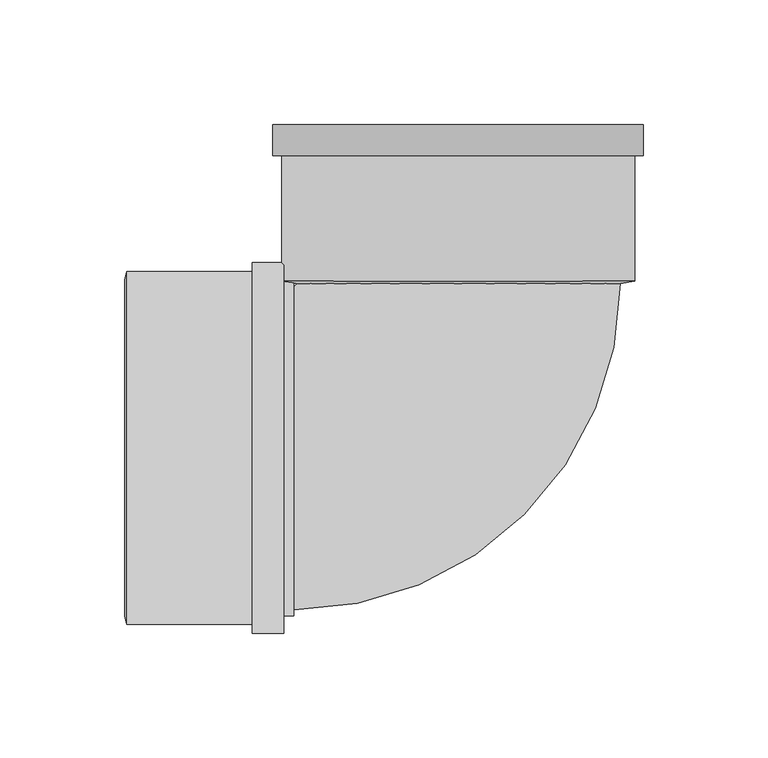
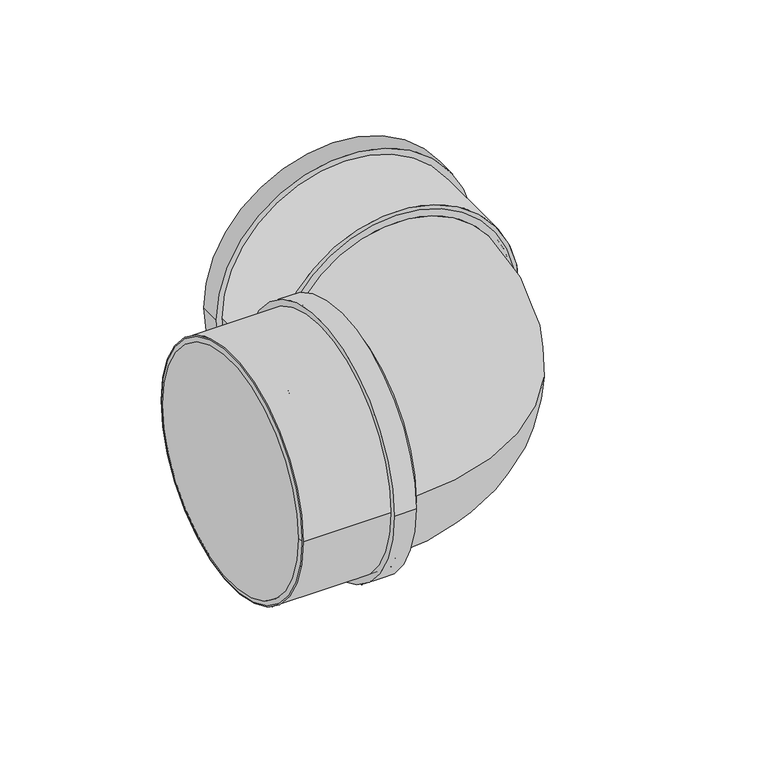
"""IFC4 building model written with IfcOpenShell, lengths in millimetres: pipe fitting geometry, Superdrain SK Bend_Composite 2x45 : Superdrain SK Bend_Composite 2x45."""

import ifcopenshell
import ifcopenshell.guid

model = None  # the IFC model being written
_history = None  # IfcOwnerHistory: only IFC2X3 demands one
_inside = {}  # id of a spatial element -> (the spatial element, [elements in it])
_under = {}  # id of a project, library or spatial element -> (it, [spatial elements below it])
_declared = {}  # id of a project -> (the project, [libraries it declares])
_typed = {}  # id of a type object -> (the type object, [elements of that type])
_made_of = {}  # id of a material, layer set ... -> (it, [elements and type objects made of it])


def new_model(schema):
    """Start an empty IFC model of exactly this schema.

    Asked for "IFC4X3", IfcOpenShell would pick the latest addendum, in which some entities
    have other attributes; the version numbers below select the first issue.
    IFC2X3 requires an IfcOwnerHistory on every rooted entity: one is made here for all.
    """
    global model, _history
    if schema == "IFC4X3":
        model = ifcopenshell.file(schema_version=(4, 3, 0, 0))
    else:
        model = ifcopenshell.file(schema=schema)
    _inside.clear()
    _under.clear()
    _declared.clear()
    _typed.clear()
    _made_of.clear()
    _history = None
    if model.schema == "IFC2X3":
        org = make("IfcOrganization", Name="unknown")
        user = make(
            "IfcPersonAndOrganization",
            ThePerson=make("IfcPerson", FamilyName="unknown"),
            TheOrganization=org,
        )
        app = make(
            "IfcApplication",
            ApplicationDeveloper=org,
            Version="unknown",
            ApplicationFullName="unknown",
            ApplicationIdentifier="unknown",
        )
        _history = make(
            "IfcOwnerHistory",
            OwningUser=user,
            OwningApplication=app,
            ChangeAction="ADDED",
            CreationDate=0,
        )
    return model


def make(cls, **values):
    """One entity of the class cls with the attributes given. An attribute that is None is left unset."""
    return model.create_entity(
        cls, **{name: value for name, value in values.items() if value is not None}
    )


def rooted(cls, **values):
    """An entity with a GlobalId (a new one), such as an element, a storey or a relation."""
    return make(cls, GlobalId=ifcopenshell.guid.new(), OwnerHistory=_history, **values)


def si_unit(unit_type, name, prefix=None):
    """IfcSIUnit, for example si_unit("LENGTHUNIT", "METRE", prefix="MILLI")."""
    return make("IfcSIUnit", UnitType=unit_type, Prefix=prefix, Name=name)


def assignment(units):
    """IfcUnitAssignment: the units of a project."""
    return None if units is None else make("IfcUnitAssignment", Units=units)


def point(xyz):
    """IfcCartesianPoint."""
    return None if xyz is None else make("IfcCartesianPoint", Coordinates=xyz)


def direction(xyz):
    """IfcDirection."""
    return None if xyz is None else make("IfcDirection", DirectionRatios=xyz)


def frame(location, z_axis=None, x_axis=None):
    """IfcAxis2Placement3D, a coordinate frame: its origin and axes. An axis left out is left unset."""
    return make(
        "IfcAxis2Placement3D",
        Location=point(location),
        Axis=direction(z_axis),
        RefDirection=direction(x_axis),
    )


def frame_2d(location, x_axis=None):
    """IfcAxis2Placement2D, a coordinate frame in the plane: its origin and x axis."""
    return make(
        "IfcAxis2Placement2D", Location=point(location), RefDirection=direction(x_axis)
    )


def origin():
    """The frame at (0, 0, 0) with its axes left unset."""
    return frame((0.0, 0.0, 0.0))


def origin_2d():
    """The frame at (0, 0) in the plane with its x axis left unset."""
    return frame_2d((0.0, 0.0))


def place(relative_to, where):
    """IfcLocalPlacement: puts the frame where relative to a parent placement (None: the world)."""
    return make(
        "IfcLocalPlacement", PlacementRelTo=relative_to, RelativePlacement=where
    )


def context(
    kind, dimensions, precision=None, world=None, true_north=None, identifier=None
):
    """IfcGeometricRepresentationContext, for example the 3D "Model" context."""
    return make(
        "IfcGeometricRepresentationContext",
        ContextIdentifier=identifier,
        ContextType=kind,
        CoordinateSpaceDimension=dimensions,
        Precision=precision,
        WorldCoordinateSystem=world,
        TrueNorth=true_north,
    )


def project(units=None, contexts=None):
    """IfcProject with its units and contexts."""
    return rooted(
        "IfcProject",
        Name="project",
        RepresentationContexts=contexts,
        UnitsInContext=assignment(units),
    )


def spatial(cls, under=None, at=None, **own):
    """A site, building, storey or space (cls), placed at a placement, below another one or the project."""
    s = rooted(cls, ObjectPlacement=at, **own)
    if under is not None:
        _under.setdefault(under.id(), (under, []))[1].append(s)
    return s


def polyline(points):
    """IfcPolyline through the points."""
    return make("IfcPolyline", Points=[point(p) for p in points])


def circle_curve(where, radius):
    """IfcCircle in the frame where."""
    return make("IfcCircle", Position=where, Radius=radius)


def ellipse_curve(where, semi_axis1, semi_axis2):
    """IfcEllipse in the frame where."""
    return make(
        "IfcEllipse", Position=where, SemiAxis1=semi_axis1, SemiAxis2=semi_axis2
    )


def trimmed(basis, trim1, trim2, sense, master):
    """IfcTrimmedCurve: the piece of a basis curve between two trims."""
    return make(
        "IfcTrimmedCurve",
        BasisCurve=basis,
        Trim1=trim1,
        Trim2=trim2,
        SenseAgreement=sense,
        MasterRepresentation=master,
    )


def segment(curve, same_sense, transition):
    """IfcCompositeCurveSegment."""
    return make(
        "IfcCompositeCurveSegment",
        Transition=transition,
        SameSense=same_sense,
        ParentCurve=curve,
    )


def composite_curve(segments, self_intersect=None):
    """IfcCompositeCurve: segments joined end to end."""
    return make("IfcCompositeCurve", Segments=segments, SelfIntersect=self_intersect)


def outline(outer, holes=None, kind="AREA"):
    """IfcArbitraryClosedProfileDef: a profile drawn as a closed curve; with holes, ...WithVoids."""
    if holes is None:
        return make("IfcArbitraryClosedProfileDef", ProfileType=kind, OuterCurve=outer)
    return make(
        "IfcArbitraryProfileDefWithVoids",
        ProfileType=kind,
        OuterCurve=outer,
        InnerCurves=holes,
    )


def extrude(swept, where, along, depth):
    """IfcExtrudedAreaSolid: the profile swept, set in the frame where, extruded along a direction by depth."""
    return make(
        "IfcExtrudedAreaSolid",
        SweptArea=swept,
        Position=where,
        ExtrudedDirection=direction(along),
        Depth=depth,
    )


def shape(context_of_items, identifier, shape_type, items):
    """IfcShapeRepresentation: the items that make up one representation, for example the "Body"."""
    return make(
        "IfcShapeRepresentation",
        ContextOfItems=context_of_items,
        RepresentationIdentifier=identifier,
        RepresentationType=shape_type,
        Items=items,
    )


def source(mapping_origin, context_of_items, identifier, shape_type, items):
    """IfcRepresentationMap: a shape defined once, which mapped items show again and again."""
    return make(
        "IfcRepresentationMap",
        MappingOrigin=mapping_origin,
        MappedRepresentation=shape(context_of_items, identifier, shape_type, items),
    )


def transform(
    local_origin,
    x_axis=None,
    y_axis=None,
    z_axis=None,
    scale=None,
    scale2=None,
    scale3=None,
    uniform=True,
):
    """IfcCartesianTransformationOperator3D, or its non-uniform kind. x_axis, y_axis, z_axis: its Axis1, 2, 3."""
    if uniform:
        return make(
            "IfcCartesianTransformationOperator3D",
            Axis1=direction(x_axis),
            Axis2=direction(y_axis),
            LocalOrigin=point(local_origin),
            Scale=scale,
            Axis3=direction(z_axis),
        )
    return make(
        "IfcCartesianTransformationOperator3DnonUniform",
        Axis1=direction(x_axis),
        Axis2=direction(y_axis),
        LocalOrigin=point(local_origin),
        Scale=scale,
        Axis3=direction(z_axis),
        Scale2=scale2,
        Scale3=scale3,
    )


def mapped(mapping_source, mapping_target):
    """IfcMappedItem: shows the shape of a source again, moved by a transform."""
    return make(
        "IfcMappedItem", MappingSource=mapping_source, MappingTarget=mapping_target
    )


def made_of(thing, what):
    """Note that an element or type object is made of a material, layer set ...; save() writes the relation."""
    if what is not None:
        _made_of.setdefault(what.id(), (what, []))[1].append(thing)
    return thing


def element(
    cls,
    number,
    at=None,
    inside=None,
    cuts=None,
    type_object=None,
    material=None,
    context=None,
    identifier="Body",
    shape_type=None,
    held_by="IfcProductDefinitionShape",
    body=None,
    shapes=None,
    **own,
):
    """One element of the class cls, such as IfcWall. Its Tag is "e" and its number.

    at: its placement. inside: the storey or other place that contains it. cuts: it is an
    opening in that element (IfcRelVoidsElement). A single representation is given by context,
    identifier, shape_type and body (its items); several are given by shapes. held_by: the class
    of the entity that holds the representations. save() writes the other relations.
    """
    e = rooted(cls, Tag="e%d" % number, ObjectPlacement=at, **own)
    if body is not None:
        shapes = [shape(context, identifier, shape_type, body)]
    if shapes is not None:
        e.Representation = make(held_by, Representations=shapes)
    if inside is not None:
        _inside.setdefault(inside.id(), (inside, []))[1].append(e)
    if cuts is not None:
        rooted(
            "IfcRelVoidsElement", RelatingBuildingElement=cuts, RelatedOpeningElement=e
        )
    if type_object is not None:
        _typed.setdefault(type_object.id(), (type_object, []))[1].append(e)
    return made_of(e, material)


def aggregate(whole, parts):
    """IfcRelAggregates: a whole, such as a stair, and the parts it consists of."""
    return rooted("IfcRelAggregates", RelatingObject=whole, RelatedObjects=parts)


def save(model, path):
    """Write the relations noted so far, then the file.

    IfcRelAggregates (storeys below a building ...), IfcRelContainedInSpatialStructure (elements
    in a storey), IfcRelDefinesByType, IfcRelAssociatesMaterial and IfcRelDeclares: one each for
    every whole, place, type object, material and project.
    """
    for whole, parts in _under.values():
        aggregate(whole, parts)
    for where, things in _inside.values():
        rooted(
            "IfcRelContainedInSpatialStructure",
            RelatedElements=things,
            RelatingStructure=where,
        )
    for kind, things in _typed.values():
        rooted("IfcRelDefinesByType", RelatedObjects=things, RelatingType=kind)
    for what, things in _made_of.values():
        rooted("IfcRelAssociatesMaterial", RelatedObjects=things, RelatingMaterial=what)
    for by, libraries in _declared.values():
        rooted("IfcRelDeclares", RelatingContext=by, RelatedDefinitions=libraries)
    model.write(path)


def plane_surface(at):
    """IfcPlane: the flat surface through the origin of the frame at, square to its z axis."""
    return make("IfcPlane", Position=at)


def revolved_surface(curve, axis_point, axis_direction):
    """IfcSurfaceOfRevolution: the curve turned about the line through axis_point along axis_direction."""
    return make(
        "IfcSurfaceOfRevolution",
        SweptCurve=make("IfcArbitraryOpenProfileDef", ProfileType="CURVE", Curve=curve),
        AxisPosition=make("IfcAxis1Placement", Location=point(axis_point), Axis=direction(axis_direction)),
    )


def advanced_brep(points, edges, surfaces, faces):
    """IfcAdvancedBrep: a solid bounded by faces that lie on surfaces and meet in shared edges.

    An edge is (start, end): straight between two places in points (the first is 0);
    or (start, end, curve); or (start, end, curve, False) where it runs against its curve.
    A face is (place in surfaces, loops), or (place, loops, False) where it looks against
    its surface's normal. A loop lists edges by number (the first is 1), with a minus sign
    where the edge is run from its end to its start. The first loop is the outer one.
    """
    corners = [point(p) for p in points]
    vertices = [make("IfcVertexPoint", VertexGeometry=c) for c in corners]
    made = []
    for start, end, *more in edges:
        made.append(
            make(
                "IfcEdgeCurve",
                EdgeStart=vertices[start],
                EdgeEnd=vertices[end],
                EdgeGeometry=more[0] if more else make("IfcPolyline", Points=[corners[start], corners[end]]),
                SameSense=more[1] if len(more) > 1 else True,
            )
        )
    hull = []
    for where, loops, *sense in faces:
        bounds = []
        for j, loop in enumerate(loops):
            ring = [make("IfcOrientedEdge", EdgeElement=made[abs(k) - 1], Orientation=k > 0) for k in loop]
            bounds.append(
                make(
                    "IfcFaceOuterBound" if j == 0 else "IfcFaceBound",
                    Bound=make("IfcEdgeLoop", EdgeList=ring),
                    Orientation=True,
                )
            )
        hull.append(make("IfcAdvancedFace", Bounds=bounds, FaceSurface=surfaces[where], SameSense=sense[0] if sense else True))
    return make("IfcAdvancedBrep", Outer=make("IfcClosedShell", CfsFaces=hull))


def pipe_fitting_be12157c(model_context):
    return source(origin(), model_context, "Body", "SolidModel", [
        extrude(outline(composite_curve([segment(trimmed(circle_curve(origin_2d(), 70.875), [point((70.875, 0.0))], [point((-70.875, 0.0))], False, "CARTESIAN"), True, "CONTINUOUS"), segment(trimmed(circle_curve(origin_2d(), 70.875), [point((-70.875, 0.0))], [point((70.875, 0.0))], False, "CARTESIAN"), True, "CONTINUOUS")], self_intersect=False), holes=[composite_curve([segment(trimmed(circle_curve(origin_2d(), 67.5), [point((67.5, 0.0))], [point((-67.5, 0.0))], True, "CARTESIAN"), True, "CONTINUOUS"), segment(trimmed(circle_curve(origin_2d(), 67.5), [point((-67.5, 0.0))], [point((67.5, 0.0))], True, "CARTESIAN"), True, "CONTINUOUS")], self_intersect=False)]), frame((-133.0, 0.0, 0.0), z_axis=(1.0, 0.0, 0.0), x_axis=(0.0, 1.0, 0.0)), (0.0, 0.0, 1.0), 63.0),
        extrude(outline(composite_curve([segment(trimmed(circle_curve(origin_2d(), 74.41875), [point((74.41875, 0.0))], [point((-74.41875, 0.0))], False, "CARTESIAN"), True, "CONTINUOUS"), segment(trimmed(circle_curve(origin_2d(), 74.41875), [point((-74.41875, 0.0))], [point((74.41875, 0.0))], False, "CARTESIAN"), True, "CONTINUOUS")], self_intersect=False), holes=[composite_curve([segment(trimmed(circle_curve(origin_2d(), 67.5), [point((67.5, 0.0))], [point((-67.5, 0.0))], True, "CARTESIAN"), True, "CONTINUOUS"), segment(trimmed(circle_curve(origin_2d(), 67.5), [point((-67.5, 0.0))], [point((67.5, 0.0))], True, "CARTESIAN"), True, "CONTINUOUS")], self_intersect=False)]), frame((-82.6, 0.0, 0.0), z_axis=(1.0, 0.0, 0.0), x_axis=(0.0, 1.0, 0.0)), (0.0, 0.0, 1.0), 12.6),
        advanced_brep(
        [(-134.0, 67.5, 0.0), (-134.0, -67.5, 0.0), (-133.0, 70.875, 0.0), (-133.0, -70.875, 0.0)],
        [
            (0, 1, circle_curve(frame((-134.0, 0.0, 0.0), z_axis=(-1.0, 0.0, 0.0), x_axis=(0.0, 1.0000000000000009, 0.0)), 67.5)),
            (1, 0, circle_curve(frame((-134.0, 0.0, 0.0), z_axis=(-1.0, 0.0, 0.0), x_axis=(0.0, -1.0000000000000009, 0.0)), 67.5)),
            (2, 3, circle_curve(frame((-133.0, 0.0, 0.0), z_axis=(1.0, 0.0, 0.0), x_axis=(0.0, -1.0000000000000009, 0.0)), 70.875)),
            (3, 2, circle_curve(frame((-133.0, 0.0, 0.0), z_axis=(1.0, 0.0, 0.0), x_axis=(0.0, 1.0000000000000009, 0.0)), 70.875)),
            (3, 1),
            (0, 2),
        ],
        [
            plane_surface(frame((-134.0, 0.0, 0.0), z_axis=(-1.0, 0.0, 0.0), x_axis=(0.0, 0.0, -1.0))),
            plane_surface(frame((-133.0, 0.0, 0.0), z_axis=(1.0, 0.0, 0.0), x_axis=(0.0, 0.0, -1.0))),
            revolved_surface(polyline([(-134.0, 67.49999999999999, 0.0), (-133.0, 70.875, 0.0)]), (-154.0, 0.0, 0.0), (1.0000000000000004, 0.0, 0.0)),
            revolved_surface(polyline([(-134.0, -67.49999999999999, 0.0), (-133.0, -70.875, 0.0)]), (-154.0, 0.0, 0.0), (1.0000000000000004, 0.0, 0.0)),
        ],
        [
            (0, [[1, 2]]),
            (1, [[3, 4]]),
            (2, [[-4, 5, -1, 6]]),
            (3, [[-3, -6, -2, -5]]),
        ],
    ),
        advanced_brep(
        [(65.0, 66.0, 0.0), (-65.0, 66.0, 0.0), (-66.0, -65.0, 0.0), (-66.0, 65.0, 0.0)],
        [
            (0, 1, circle_curve(frame((0.0, 66.0, 0.0), z_axis=(0.0, 1.0, 0.0), x_axis=(-1.0, 0.0, 0.0)), 65.0)),
            (1, 0, circle_curve(frame((0.0, 66.0, 0.0), z_axis=(0.0, 1.0, 0.0), x_axis=(-1.0, 0.0, 0.0)), 65.0)),
            (2, 3, circle_curve(frame((-66.0, 0.0, 0.0), z_axis=(-1.0, 0.0, 0.0), x_axis=(0.0, 1.0, 0.0)), 65.0)),
            (3, 2, circle_curve(frame((-66.0, 0.0, 0.0), z_axis=(-1.0, 0.0, 0.0), x_axis=(0.0, 1.0, 0.0)), 65.0)),
            (3, 1, circle_curve(frame((-66.0, 66.0, 0.0), z_axis=(0.0, 0.0, 1.0), x_axis=(1.0, 0.0, 0.0)), 1.0)),
            (0, 2, circle_curve(frame((-66.0, 66.0, 0.0), z_axis=(0.0, 0.0, -1.0), x_axis=(1.0, 0.0, 0.0)), 131.0)),
        ],
        [
            plane_surface(frame((0.0, 66.0, 0.0), z_axis=(0.0, 1.0, 0.0), x_axis=(0.0, 0.0, -1.0))),
            plane_surface(frame((-66.0, 0.0, 0.0), z_axis=(-1.0, 0.0, 0.0), x_axis=(0.0, 0.0, -1.0))),
            revolved_surface(trimmed(ellipse_curve(frame((0.0, 66.0, 0.0), z_axis=(0.0, -1.0, 0.0), x_axis=(-1.0, 0.0, 0.0)), 65.0, 65.0), [point((-65.0, 66.0, 0.0))], [point((65.0, 66.0, 0.0))], True, "CARTESIAN"), (-66.0, 66.0, 0.0), (0.0, 0.0, 1.0)),
            revolved_surface(trimmed(ellipse_curve(frame((0.0, 66.0, 0.0), z_axis=(0.0, -1.0, 0.0), x_axis=(-1.0, 0.0, 0.0)), 65.0, 65.0), [point((65.0, 66.0, 0.0))], [point((-65.0, 66.0, 0.0))], True, "CARTESIAN"), (-66.0, 66.0, 0.0), (0.0, 0.0, 1.0)),
        ],
        [
            (0, [[1, 2]]),
            (1, [[3, 4]]),
            (2, [[-4, 5, -1, 6]]),
            (3, [[-3, -6, -2, -5]]),
        ],
    ),
        extrude(outline(composite_curve([segment(trimmed(circle_curve(origin_2d(), 70.875), [point((0.0, 70.875))], [point((0.0, -70.875))], False, "CARTESIAN"), True, "CONTINUOUS"), segment(trimmed(circle_curve(origin_2d(), 70.875), [point((0.0, -70.875))], [point((0.0, 70.875))], False, "CARTESIAN"), True, "CONTINUOUS")], self_intersect=False), holes=[composite_curve([segment(trimmed(circle_curve(origin_2d(), 67.5), [point((0.0, 67.5))], [point((0.0, -67.5))], True, "CARTESIAN"), True, "CONTINUOUS"), segment(trimmed(circle_curve(origin_2d(), 67.5), [point((0.0, -67.5))], [point((0.0, 67.5))], True, "CARTESIAN"), True, "CONTINUOUS")], self_intersect=False)]), frame((0.0, 67.0, 0.0), z_axis=(0.0, 1.0, 0.0), x_axis=(0.0, 0.0, 1.0)), (0.0, 0.0, 1.0), 63.0),
        extrude(outline(composite_curve([segment(trimmed(circle_curve(origin_2d(), 74.41875), [point((0.0, -74.41875))], [point((0.0, 74.41875))], False, "CARTESIAN"), True, "CONTINUOUS"), segment(trimmed(circle_curve(origin_2d(), 74.41875), [point((0.0, 74.41875))], [point((0.0, -74.41875))], False, "CARTESIAN"), True, "CONTINUOUS")], self_intersect=False), holes=[composite_curve([segment(trimmed(circle_curve(origin_2d(), 67.5), [point((0.0, -67.5))], [point((0.0, 67.5))], True, "CARTESIAN"), True, "CONTINUOUS"), segment(trimmed(circle_curve(origin_2d(), 67.5), [point((0.0, 67.5))], [point((0.0, -67.5))], True, "CARTESIAN"), True, "CONTINUOUS")], self_intersect=False)]), frame((0.0, 117.4, 0.0), z_axis=(0.0, 1.0, 0.0), x_axis=(0.0, 0.0, 1.0)), (0.0, 0.0, 1.0), 12.6),
        advanced_brep(
        [(70.875, 67.0, 0.0), (-70.875, 67.0, 0.0), (65.0, 66.0, 0.0), (-65.0, 66.0, 0.0)],
        [
            (0, 1, circle_curve(frame((0.0, 67.0, 0.0), z_axis=(0.0, 1.0, 0.0), x_axis=(1.0, 0.0, 0.0)), 70.875)),
            (1, 0, circle_curve(frame((0.0, 67.0, 0.0), z_axis=(0.0, 1.0, 0.0), x_axis=(-1.0, 0.0, 0.0)), 70.875)),
            (2, 3, circle_curve(frame((0.0, 66.0, 0.0), z_axis=(0.0, -1.0, 0.0), x_axis=(-1.0, 0.0, 0.0)), 65.0)),
            (3, 2, circle_curve(frame((0.0, 66.0, 0.0), z_axis=(0.0, -1.0, 0.0), x_axis=(1.0, 0.0, 0.0)), 65.0)),
            (3, 1),
            (0, 2),
        ],
        [
            plane_surface(frame((0.0, 67.0, 0.0), z_axis=(0.0, 1.0, 0.0), x_axis=(0.0, 0.0, -1.0))),
            plane_surface(frame((0.0, 66.0, 0.0), z_axis=(0.0, -1.0, 0.0), x_axis=(0.0, 0.0, -1.0))),
            revolved_surface(polyline([(-65.00000000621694, 66.0, 0.0), (-70.875, 67.0, 0.0)]), (0.0, 54.9361702, 0.0), (0.0, 1.0, 0.0)),
            revolved_surface(polyline([(65.00000000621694, 66.0, 0.0), (70.875, 67.0, 0.0)]), (0.0, 54.9361702, 0.0), (0.0, 1.0, 0.0)),
        ],
        [
            (0, [[1, 2]]),
            (1, [[3, 4]]),
            (2, [[-4, 5, -1, 6]]),
            (3, [[-3, -6, -2, -5]]),
        ],
    ),
        extrude(outline(composite_curve([segment(trimmed(circle_curve(origin_2d(), 67.5), [point((-67.5, 0.0))], [point((67.5, 0.0))], False, "CARTESIAN"), True, "CONTINUOUS"), segment(trimmed(circle_curve(origin_2d(), 67.5), [point((67.5, 0.0))], [point((-67.5, 0.0))], False, "CARTESIAN"), True, "CONTINUOUS")], self_intersect=False)), frame((-133.0, 0.0, 0.0), z_axis=(1.0, 0.0, 0.0), x_axis=(0.0, 1.0, 0.0)), (0.0, 0.0, 1.0), 67.0),
    ])


if __name__ == "__main__":
    model = new_model("IFC4")
    model_context = context("Model", 3, world=origin())
    ifc_project = project(units=[si_unit("LENGTHUNIT", "METRE", prefix="MILLI")], contexts=[model_context])
    site = spatial("IfcSite", under=ifc_project)
    building = spatial("IfcBuilding", under=site)
    placement = place(None, origin())
    pipe_fitting_shape = pipe_fitting_be12157c(model_context)
    element("IfcPipeFitting", 1, ObjectType="Superdrain SK Bend_Composite 2x45 : Superdrain SK Bend_Composite 2x45", at=placement, inside=building, context=model_context, shape_type="MappedRepresentation", body=[
        mapped(pipe_fitting_shape, transform((0.0, 0.0, 0.0), x_axis=(1.0, 0.0, 0.0), y_axis=(0.0, 1.0, 0.0), z_axis=(0.0, 0.0, 1.0))),
    ])
    save(model, "model.ifc")
